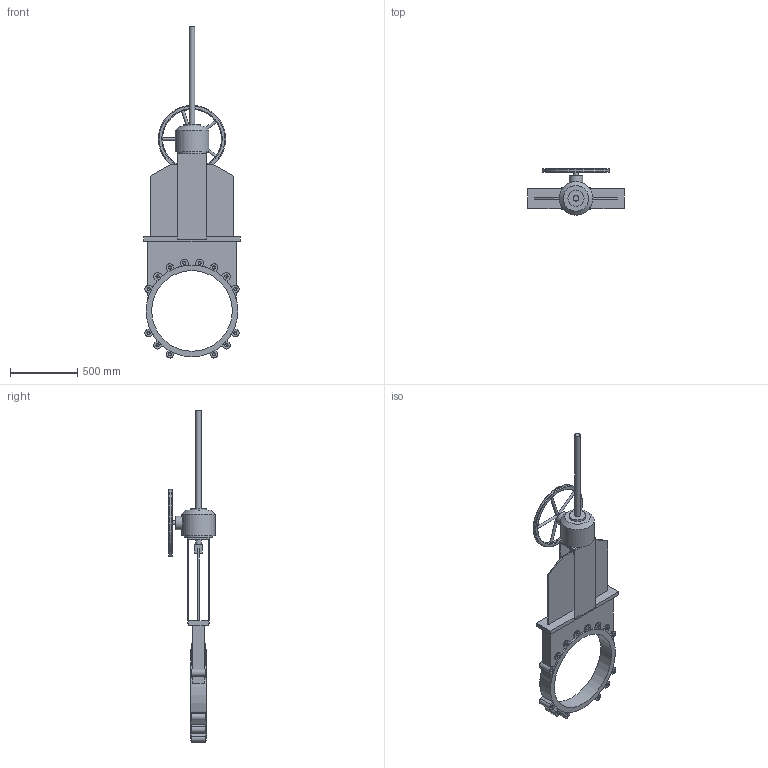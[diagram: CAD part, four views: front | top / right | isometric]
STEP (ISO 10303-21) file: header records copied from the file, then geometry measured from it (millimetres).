
FILE_DESCRIPTION(('STEP AP203'), '1');
FILE_NAME('Çàäâèæêà øèáåðíàÿ K51GV DN600 ðåäóêòîð+âûäâèæíîé øïèíäåëü', '', ('UNSPECIFIED'), ('UNSPECIFIED'), 'ASCON STEP Converter 1.6', 'ASCON Math Kernel', '');
FILE_SCHEMA(('CONFIG_CONTROL_DESIGN'));
Length unit declared in the file: millimetre
Bounding box: 720 x 345 x 2470.45 mm (x, y, z)
Volume: 46407542.8 mm3; surface area: 3122183 mm2
Topology: 1 solids, 1 shells, 247 faces, 636 edges, 406 vertices
Faces by surface type: plane 141, cylinder 73, cone 29, torus 4
Full cylindrical faces by diameter (mm): 20 x5, 23.752 x28, 30 x1, 40 x2, 100 x1, 120 x1, 210 x1, 250 x1, 500 x1, 600 x1, 682 x1
Entity records: 11373 total; most frequent: CARTESIAN_POINT 3662, DIRECTION 1196, ORIENTED_EDGE 1086, EDGE_CURVE 543, AXIS2_PLACEMENT_3D 457, VERTEX_POINT 390, EDGE_LOOP 355, LINE 282
